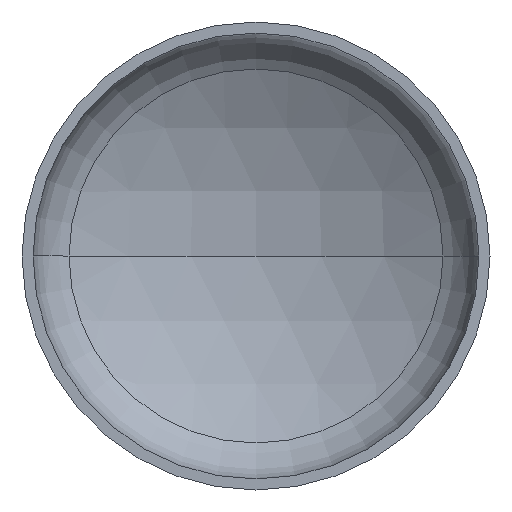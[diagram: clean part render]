
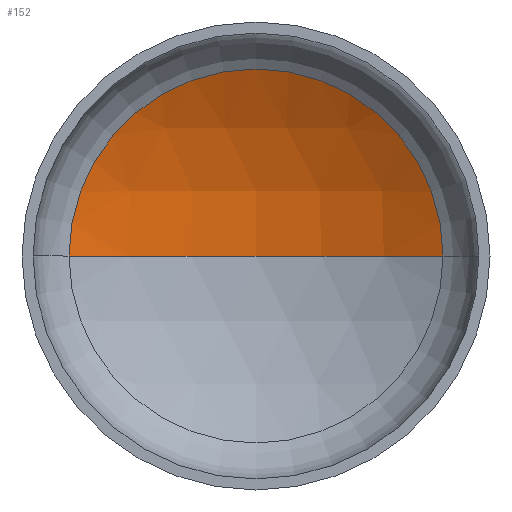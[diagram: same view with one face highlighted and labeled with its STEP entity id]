
A CAD part, front view. The second image highlights one B-rep face of the part: STEP entity #152.
In plain terms, the highlighted spherical face has radius 2240 mm.
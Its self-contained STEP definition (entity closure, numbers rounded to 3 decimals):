
#16 = VERTEX_POINT ( 'NONE', #360 ) ;
#17 = AXIS2_PLACEMENT_3D ( 'NONE', #81, #80, #88 ) ;
#21 = CIRCLE ( 'NONE', #25, 1118.762 ) ;
#23 = AXIS2_PLACEMENT_3D ( 'NONE', #235, #403, #137 ) ;
#25 = AXIS2_PLACEMENT_3D ( 'NONE', #259, #98, #85 ) ;
#34 = ORIENTED_EDGE ( 'NONE', *, *, #334, .F. ) ;
#43 = DIRECTION ( 'NONE',  ( -1., 0., 0. ) ) ;
#44 = AXIS2_PLACEMENT_3D ( 'NONE', #168, #177, #43 ) ;
#73 = ORIENTED_EDGE ( 'NONE', *, *, #326, .T. ) ;
#80 = DIRECTION ( 'NONE',  ( 0., 0., 1. ) ) ;
#81 = CARTESIAN_POINT ( 'NONE',  ( 0., -1448.083, 0. ) ) ;
#85 = DIRECTION ( 'NONE',  ( 1., 0., 0. ) ) ;
#88 = DIRECTION ( 'NONE',  ( 1., 0., 0. ) ) ;
#98 = DIRECTION ( 'NONE',  ( 0., -1., 0. ) ) ;
#137 = DIRECTION ( 'NONE',  ( -1., 0., 0. ) ) ;
#152 = ADVANCED_FACE ( 'NONE', ( #154 ), #294, .F. ) ;
#154 = FACE_OUTER_BOUND ( 'NONE', #267, .T. ) ;
#164 = CARTESIAN_POINT ( 'NONE',  ( 0., 791.917, 0. ) ) ;
#168 = CARTESIAN_POINT ( 'NONE',  ( 0., -1448.083, 0. ) ) ;
#177 = DIRECTION ( 'NONE',  ( 0., 0., -1. ) ) ;
#179 = CARTESIAN_POINT ( 'NONE',  ( 1118.762, 492.528, 0. ) ) ;
#219 = VERTEX_POINT ( 'NONE', #164 ) ;
#233 = VERTEX_POINT ( 'NONE', #179 ) ;
#235 = CARTESIAN_POINT ( 'NONE',  ( 0., -1448.083, 0. ) ) ;
#256 = CIRCLE ( 'NONE', #17, 2240. ) ;
#259 = CARTESIAN_POINT ( 'NONE',  ( 0., 492.528, 0. ) ) ;
#267 = EDGE_LOOP ( 'NONE', ( #34, #386, #73 ) ) ;
#294 = SPHERICAL_SURFACE ( 'NONE', #44, 2240. ) ;
#326 = EDGE_CURVE ( 'NONE', #233, #16, #21, .T. ) ;
#327 = EDGE_CURVE ( 'NONE', #219, #233, #332, .T. ) ;
#332 = CIRCLE ( 'NONE', #23, 2240. ) ;
#334 = EDGE_CURVE ( 'NONE', #219, #16, #256, .T. ) ;
#360 = CARTESIAN_POINT ( 'NONE',  ( -1118.762, 492.528, 0. ) ) ;
#386 = ORIENTED_EDGE ( 'NONE', *, *, #327, .T. ) ;
#403 = DIRECTION ( 'NONE',  ( 0., 0., -1. ) ) ;
